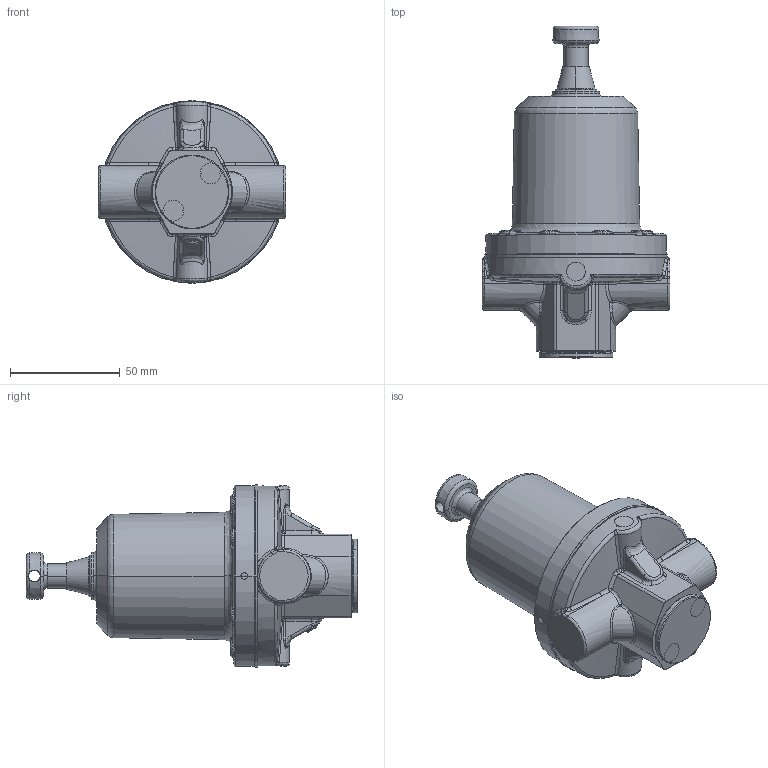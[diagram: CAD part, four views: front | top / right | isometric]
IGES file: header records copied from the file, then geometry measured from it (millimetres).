
Start section:  PTC IGES file: 234263-en-e.igs
Global section: file name: 234263-en-e.igs; native system: Creo Parametric by PTC Inc.; preprocessor: 2019030; author: qusrh3; organization: Unknown; date: 20191231.155838; units: inch
Bounding box: 85.3 x 150.89 x 83 mm (x, y, z)
Surface area: 55358.1 mm2 (no closed solid volume)
Topology: 0 solids, 0 shells, 374 faces, 1680 edges, 1680 vertices
Faces by surface type: revolution 202, bspline 172
